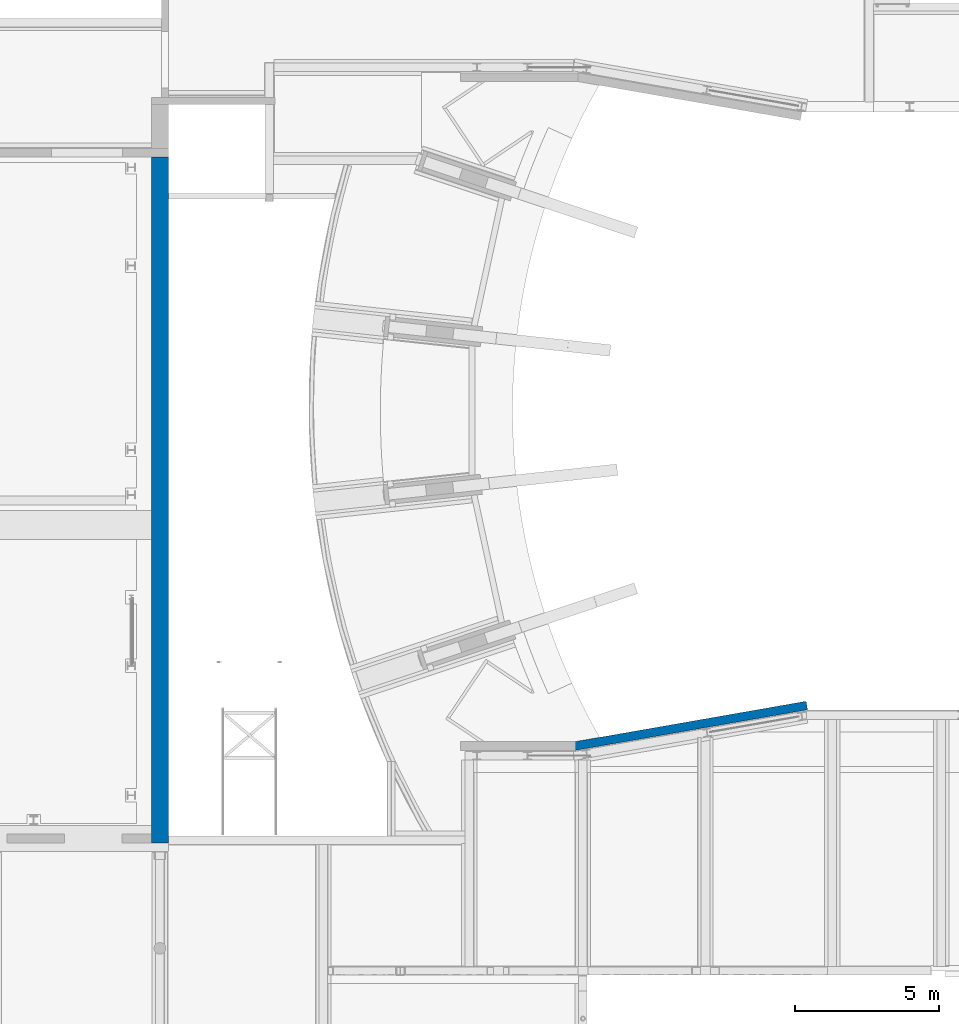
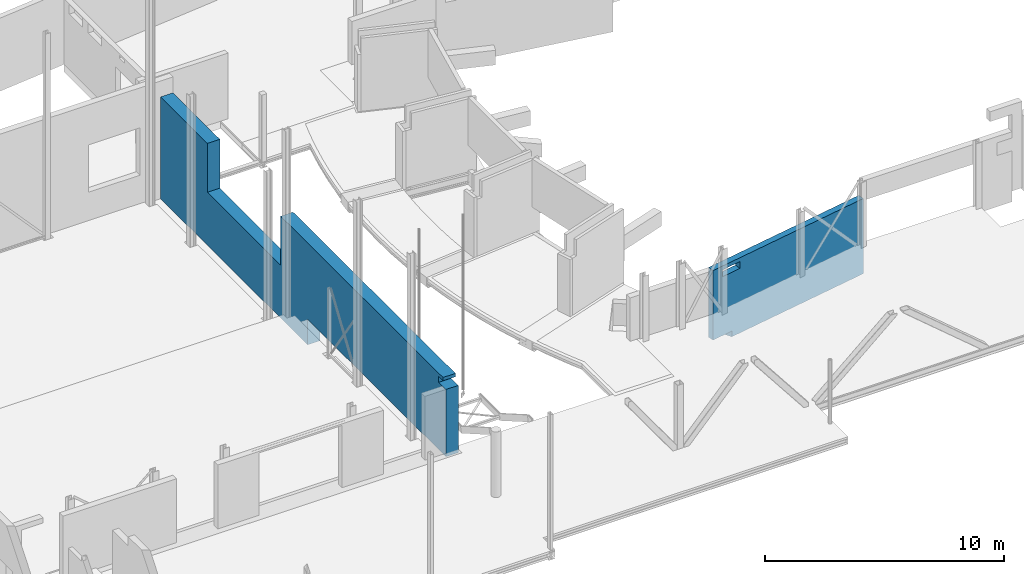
# One storey, part 36 of 37: 2 walls.
"""IFC2X3 building model written with IfcOpenShell, lengths in millimetres."""

import ifcopenshell
import ifcopenshell.guid

model = None  # the IFC model being written
_history = None  # IfcOwnerHistory: only IFC2X3 demands one
_inside = {}  # id of a spatial element -> (the spatial element, [elements in it])
_under = {}  # id of a project, library or spatial element -> (it, [spatial elements below it])
_declared = {}  # id of a project -> (the project, [libraries it declares])
_typed = {}  # id of a type object -> (the type object, [elements of that type])
_made_of = {}  # id of a material, layer set ... -> (it, [elements and type objects made of it])


def new_model(schema):
    """Start an empty IFC model of exactly this schema.

    Asked for "IFC4X3", IfcOpenShell would pick the latest addendum, in which some entities
    have other attributes; the version numbers below select the first issue.
    IFC2X3 requires an IfcOwnerHistory on every rooted entity: one is made here for all.
    """
    global model, _history
    if schema == "IFC4X3":
        model = ifcopenshell.file(schema_version=(4, 3, 0, 0))
    else:
        model = ifcopenshell.file(schema=schema)
    _inside.clear()
    _under.clear()
    _declared.clear()
    _typed.clear()
    _made_of.clear()
    _history = None
    if model.schema == "IFC2X3":
        org = make("IfcOrganization", Name="unknown")
        user = make(
            "IfcPersonAndOrganization",
            ThePerson=make("IfcPerson", FamilyName="unknown"),
            TheOrganization=org,
        )
        app = make(
            "IfcApplication",
            ApplicationDeveloper=org,
            Version="unknown",
            ApplicationFullName="unknown",
            ApplicationIdentifier="unknown",
        )
        _history = make(
            "IfcOwnerHistory",
            OwningUser=user,
            OwningApplication=app,
            ChangeAction="ADDED",
            CreationDate=0,
        )
    return model


def make(cls, **values):
    """One entity of the class cls with the attributes given. An attribute that is None is left unset."""
    return model.create_entity(
        cls, **{name: value for name, value in values.items() if value is not None}
    )


def entity(cls, *values):
    """Any entity or typed value of the class cls, its attributes in the order of the schema. None: left unset."""
    e = model.create_entity(cls)
    for i, value in enumerate(values):
        if value is not None:
            e[i] = value
    return e


def rooted(cls, **values):
    """An entity with a GlobalId (a new one), such as an element, a storey or a relation."""
    return make(cls, GlobalId=ifcopenshell.guid.new(), OwnerHistory=_history, **values)


def si_unit(unit_type, name, prefix=None):
    """IfcSIUnit, for example si_unit("LENGTHUNIT", "METRE", prefix="MILLI")."""
    return make("IfcSIUnit", UnitType=unit_type, Prefix=prefix, Name=name)


def converted_unit(unit_type, name, factor, base, dimensions=None, offset=None):
    """IfcConversionBasedUnit, such as the inch: factor (a typed value) times the base unit."""
    return make(
        "IfcConversionBasedUnit"
        if offset is None
        else "IfcConversionBasedUnitWithOffset",
        ConversionOffset=offset,
        Dimensions=None
        if dimensions is None
        else entity("IfcDimensionalExponents", *dimensions),
        UnitType=unit_type,
        Name=name,
        ConversionFactor=make(
            "IfcMeasureWithUnit", ValueComponent=factor, UnitComponent=base
        ),
    )


def derived_unit(unit_type, elements):
    """IfcDerivedUnit: a product of units, each with its exponent."""
    return make(
        "IfcDerivedUnit",
        Elements=[
            make("IfcDerivedUnitElement", Unit=unit, Exponent=power)
            for unit, power in elements
        ],
        UnitType=unit_type,
    )


def assignment(units):
    """IfcUnitAssignment: the units of a project."""
    return None if units is None else make("IfcUnitAssignment", Units=units)


def point(xyz):
    """IfcCartesianPoint."""
    return None if xyz is None else make("IfcCartesianPoint", Coordinates=xyz)


def direction(xyz):
    """IfcDirection."""
    return None if xyz is None else make("IfcDirection", DirectionRatios=xyz)


def frame(location, z_axis=None, x_axis=None):
    """IfcAxis2Placement3D, a coordinate frame: its origin and axes. An axis left out is left unset."""
    return make(
        "IfcAxis2Placement3D",
        Location=point(location),
        Axis=direction(z_axis),
        RefDirection=direction(x_axis),
    )


def origin():
    """The frame at (0, 0, 0) with its axes left unset."""
    return frame((0.0, 0.0, 0.0))


def place(relative_to, where):
    """IfcLocalPlacement: puts the frame where relative to a parent placement (None: the world)."""
    return make(
        "IfcLocalPlacement", PlacementRelTo=relative_to, RelativePlacement=where
    )


def context(
    kind, dimensions, precision=None, world=None, true_north=None, identifier=None
):
    """IfcGeometricRepresentationContext, for example the 3D "Model" context."""
    return make(
        "IfcGeometricRepresentationContext",
        ContextIdentifier=identifier,
        ContextType=kind,
        CoordinateSpaceDimension=dimensions,
        Precision=precision,
        WorldCoordinateSystem=world,
        TrueNorth=true_north,
    )


def subcontext(parent, identifier, kind, view, scale=None):
    """IfcGeometricRepresentationSubContext, for example "Body" below "Model"."""
    return make(
        "IfcGeometricRepresentationSubContext",
        ContextIdentifier=identifier,
        ContextType=kind,
        ParentContext=parent,
        TargetScale=scale,
        TargetView=view,
    )


def project(units=None, contexts=None):
    """IfcProject with its units and contexts."""
    return rooted(
        "IfcProject",
        Name="project",
        RepresentationContexts=contexts,
        UnitsInContext=assignment(units),
    )


def spatial(cls, under=None, at=None, **own):
    """A site, building, storey or space (cls), placed at a placement, below another one or the project."""
    s = rooted(cls, ObjectPlacement=at, **own)
    if under is not None:
        _under.setdefault(under.id(), (under, []))[1].append(s)
    return s


def faces_of(points, faces, orient=None, outer=None):
    """IfcFace entities. A face is a list of loops; a loop is a list of indices into points, from 0.

    orient and outer hold one flag for each loop. By default every Orientation is true, the
    first loop of a face is its IfcFaceOuterBound and the others are IfcFaceBound.
    """
    made = []
    for i, loops in enumerate(faces):
        bounds = []
        for j, loop in enumerate(loops):
            is_outer = j == 0 if outer is None else outer[i][j]
            bounds.append(
                make(
                    "IfcFaceOuterBound" if is_outer else "IfcFaceBound",
                    Bound=make("IfcPolyLoop", Polygon=[points[k] for k in loop]),
                    Orientation=True if orient is None else orient[i][j],
                )
            )
        made.append(make("IfcFace", Bounds=bounds))
    return made


def faceted_brep(points, faces, orient=None, outer=None, voids=None):
    """IfcFacetedBrep: a solid bounded by flat faces; with voids (closed shells), ...WithVoids."""
    shared = [point(p) for p in points]
    hull = make("IfcClosedShell", CfsFaces=faces_of(shared, faces, orient, outer))
    if voids is None:
        return make("IfcFacetedBrep", Outer=hull)
    return make(
        "IfcFacetedBrepWithVoids",
        Outer=hull,
        Voids=[
            make(cls, CfsFaces=faces_of(shared, fs, o, b)) for cls, fs, o, b in voids
        ],
    )


def shape(context_of_items, identifier, shape_type, items):
    """IfcShapeRepresentation: the items that make up one representation, for example the "Body"."""
    return make(
        "IfcShapeRepresentation",
        ContextOfItems=context_of_items,
        RepresentationIdentifier=identifier,
        RepresentationType=shape_type,
        Items=items,
    )


def material(Name=None, Category=None):
    """IfcMaterial."""
    return make("IfcMaterial", Name=Name, Category=Category)


def layer(
    of_material, thickness, ventilated=None, Name=None, Category=None, Priority=None
):
    """IfcMaterialLayer: one layer of a wall or slab, of a material (None: an air gap)."""
    return make(
        "IfcMaterialLayer",
        Material=of_material,
        LayerThickness=thickness,
        IsVentilated=ventilated,
        Name=Name,
        Category=Category,
        Priority=Priority,
    )


def layer_set(layers, Name=None):
    """IfcMaterialLayerSet."""
    return make("IfcMaterialLayerSet", MaterialLayers=layers, LayerSetName=Name)


def made_of(thing, what):
    """Note that an element or type object is made of a material, layer set ...; save() writes the relation."""
    if what is not None:
        _made_of.setdefault(what.id(), (what, []))[1].append(thing)
    return thing


def type_object(cls, material=None, **own):
    """A type object (cls), such as IfcWallType, which elements share."""
    return made_of(rooted(cls, **own), material)


def element(
    cls,
    number,
    at=None,
    inside=None,
    cuts=None,
    type_object=None,
    material=None,
    context=None,
    identifier="Body",
    shape_type=None,
    held_by="IfcProductDefinitionShape",
    body=None,
    shapes=None,
    **own,
):
    """One element of the class cls, such as IfcWall. Its Tag is "e" and its number.

    at: its placement. inside: the storey or other place that contains it. cuts: it is an
    opening in that element (IfcRelVoidsElement). A single representation is given by context,
    identifier, shape_type and body (its items); several are given by shapes. held_by: the class
    of the entity that holds the representations. save() writes the other relations.
    """
    e = rooted(cls, Tag="e%d" % number, ObjectPlacement=at, **own)
    if body is not None:
        shapes = [shape(context, identifier, shape_type, body)]
    if shapes is not None:
        e.Representation = make(held_by, Representations=shapes)
    if inside is not None:
        _inside.setdefault(inside.id(), (inside, []))[1].append(e)
    if cuts is not None:
        rooted(
            "IfcRelVoidsElement", RelatingBuildingElement=cuts, RelatedOpeningElement=e
        )
    if type_object is not None:
        _typed.setdefault(type_object.id(), (type_object, []))[1].append(e)
    return made_of(e, material)


def aggregate(whole, parts):
    """IfcRelAggregates: a whole, such as a stair, and the parts it consists of."""
    return rooted("IfcRelAggregates", RelatingObject=whole, RelatedObjects=parts)


def save(model, path):
    """Write the relations noted so far, then the file.

    IfcRelAggregates (storeys below a building ...), IfcRelContainedInSpatialStructure (elements
    in a storey), IfcRelDefinesByType, IfcRelAssociatesMaterial and IfcRelDeclares: one each for
    every whole, place, type object, material and project.
    """
    for whole, parts in _under.values():
        aggregate(whole, parts)
    for where, things in _inside.values():
        rooted(
            "IfcRelContainedInSpatialStructure",
            RelatedElements=things,
            RelatingStructure=where,
        )
    for kind, things in _typed.values():
        rooted("IfcRelDefinesByType", RelatedObjects=things, RelatingType=kind)
    for what, things in _made_of.values():
        rooted("IfcRelAssociatesMaterial", RelatedObjects=things, RelatingMaterial=what)
    for by, libraries in _declared.values():
        rooted("IfcRelDeclares", RelatingContext=by, RelatedDefinitions=libraries)
    model.write(path)


model = new_model("IFC2X3")

# Units and contexts
model_context = context("Model", 3, precision=0.01, world=origin(), true_north=direction((6.12303176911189e-17, 1.0)))
body_context = subcontext(model_context, "Body", "Model", "MODEL_VIEW")
ifc_project = project(units=[si_unit("LENGTHUNIT", "METRE", prefix="MILLI"), si_unit("AREAUNIT", "SQUARE_METRE", prefix="MILLI"), si_unit("VOLUMEUNIT", "CUBIC_METRE"), converted_unit("PLANEANGLEUNIT", "DEGREE", entity("IfcRatioMeasure", 0.0174532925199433), si_unit("PLANEANGLEUNIT", "RADIAN"), dimensions=[0, 0, 0, 0, 0, 0, 0]), si_unit("MASSUNIT", "GRAM", prefix="KILO"), derived_unit("MASSDENSITYUNIT", [(si_unit("MASSUNIT", "GRAM", prefix="KILO"), 1), (si_unit("LENGTHUNIT", "METRE"), -3)]), derived_unit("MOMENTOFINERTIAUNIT", [(si_unit("LENGTHUNIT", "METRE"), 4)]), si_unit("TIMEUNIT", "SECOND"), si_unit("FREQUENCYUNIT", "HERTZ"), si_unit("THERMODYNAMICTEMPERATUREUNIT", "DEGREE_CELSIUS"), derived_unit("THERMALTRANSMITTANCEUNIT", [(si_unit("MASSUNIT", "GRAM", prefix="KILO"), 1), (si_unit("THERMODYNAMICTEMPERATUREUNIT", "KELVIN"), -1), (si_unit("TIMEUNIT", "SECOND"), -3)]), derived_unit("VOLUMETRICFLOWRATEUNIT", [(si_unit("LENGTHUNIT", "METRE"), 3), (si_unit("TIMEUNIT", "SECOND"), -1)]), si_unit("ELECTRICCURRENTUNIT", "AMPERE"), si_unit("ELECTRICVOLTAGEUNIT", "VOLT"), si_unit("POWERUNIT", "WATT"), si_unit("FORCEUNIT", "NEWTON", prefix="KILO"), si_unit("ILLUMINANCEUNIT", "LUX"), si_unit("LUMINOUSFLUXUNIT", "LUMEN"), si_unit("LUMINOUSINTENSITYUNIT", "CANDELA"), derived_unit("USERDEFINED", [(si_unit("MASSUNIT", "GRAM", prefix="KILO"), -1), (si_unit("LENGTHUNIT", "METRE"), -2), (si_unit("TIMEUNIT", "SECOND"), 3), (si_unit("LUMINOUSFLUXUNIT", "LUMEN"), 1)]), derived_unit("LINEARVELOCITYUNIT", [(si_unit("LENGTHUNIT", "METRE"), 1), (si_unit("TIMEUNIT", "SECOND"), -1)]), si_unit("PRESSUREUNIT", "PASCAL"), derived_unit("USERDEFINED", [(si_unit("LENGTHUNIT", "METRE"), -2), (si_unit("MASSUNIT", "GRAM", prefix="KILO"), 1), (si_unit("TIMEUNIT", "SECOND"), -2)]), derived_unit("LINEARFORCEUNIT", [(si_unit("MASSUNIT", "GRAM", prefix="KILO"), 1), (si_unit("LENGTHUNIT", "METRE"), 1), (si_unit("TIMEUNIT", "SECOND"), -2), (si_unit("LENGTHUNIT", "METRE"), -1)]), derived_unit("PLANARFORCEUNIT", [(si_unit("MASSUNIT", "GRAM", prefix="KILO"), 1), (si_unit("LENGTHUNIT", "METRE"), 1), (si_unit("TIMEUNIT", "SECOND"), -2), (si_unit("LENGTHUNIT", "METRE"), -2)])], contexts=[model_context])

# Site, building, storey
site_placement = place(None, origin())
site = spatial("IfcSite", under=ifc_project, at=site_placement, Name="Theater aan de Parade", CompositionType="ELEMENT")
building_placement = place(site_placement, origin())
building = spatial("IfcBuilding", under=site, at=building_placement, Name="Theater aan de Parade", CompositionType="ELEMENT")
storey_placement = place(building_placement, frame((0.0, 0.0, 5020.0)))
storey = spatial("IfcBuildingStorey", under=building, at=storey_placement, Name="01 eerste verdieping", CompositionType="ELEMENT", Elevation=5020.0)

# Walls
ifc_material_1 = material(Name="00_PBT_MAT_beton t.p.g.")
ifc_layer_1 = layer(ifc_material_1, 300.0)
ifc_layer_set_1 = layer_set([ifc_layer_1], Name="Basic Wall:28_PBT_WA_beton t.p.g._d=300_bestaand")
wall_type_1 = type_object("IfcWallType", Name="Basic Wall:28_PBT_WA_beton t.p.g._d=300_bestaand", PredefinedType="STANDARD", material=ifc_layer_set_1)
wall_1_placement = place(storey_placement, frame((51584.4807077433, 20777.7545700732, -1710.0), z_axis=(0.0, 0.0, 1.0), x_axis=(0.985030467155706, 0.172380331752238, 0.0)))
element("IfcWall", 1, at=wall_1_placement, inside=storey, type_object=wall_type_1, Name="Basic Wall:28_PBT_WA_beton t.p.g._d=300_bestaand", ObjectType="Basic Wall:28_PBT_WA_beton t.p.g._d=300_bestaand", context=body_context, shape_type="Brep", body=[
    faceted_brep([(1478.13202737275, -150.0, 3295.0), (523.656382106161, -150.0, 3295.0), (1027.05150493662, -150.0, 290.0), (8205.6395035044, -150.0, 0.0), (8179.58746028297, -150.0, 3840.0), (1740.33775750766, -150.0, 3840.0), (1478.13202737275, -150.0, 3645.0), (0.0, -150.0, 290.0), (0.0, -150.0, 3840.0), (523.656382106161, -150.0, 3645.0), (1284.44363552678, -150.0, 3840.0), (1288.60271558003, -150.0, 3840.0), (1510.13105294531, -150.0, 3840.0), (1027.0515049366, -150.0, 0.0), (8205.6395035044, -150.0, 3840.0), (8205.6395035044, 150.0, 0.0), (915.869115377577, 150.0, 290.0), (1478.13202737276, 150.0, 3295.0), (915.869115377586, 150.0, 0.0), (1875.82403067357, 150.0, 3840.0), (8205.6395035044, 150.0, 3840.0), (523.656382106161, 150.0, 3295.0), (0.0, 150.0, 290.0), (0.0, 150.0, 3840.0), (26.0520432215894, 150.0, 3840.0), (523.656382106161, 150.0, 3645.0), (1478.13202737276, 150.0, 3645.0), (970.933376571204, -0.190984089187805, 290.0), (970.934778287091, -0.194766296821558, 0.0)], [[[0, 1, 2]], [[0, 2, 3]], [[4, 0, 3]], [[0, 4, 5]], [[6, 0, 5]], [[7, 2, 1]], [[8, 7, 1]], [[9, 8, 1]], [[8, 9, 10]], [[10, 9, 6]], [[6, 11, 10]], [[6, 5, 12]], [[12, 11, 6]], [[2, 13, 3]], [[14, 4, 3]], [[15, 16, 17]], [[16, 15, 18]], [[15, 17, 19]], [[15, 19, 20]], [[17, 16, 21]], [[22, 21, 16]], [[21, 22, 23]], [[24, 21, 23]], [[21, 24, 25]], [[25, 24, 19]], [[19, 17, 26]], [[19, 26, 25]], [[16, 27, 2, 7, 22]], [[18, 27, 16]], [[27, 18, 28]], [[28, 13, 2]], [[28, 2, 27]], [[3, 13, 28, 18, 15]], [[14, 3, 15, 20]], [[4, 14, 20, 19, 24, 23, 8, 10, 11, 12, 5]], [[7, 8, 23, 22]], [[9, 1, 21, 25]], [[6, 9, 25, 26]], [[0, 6, 26, 17]], [[1, 0, 17, 21]]]),
])
ifc_material_2 = material(Name="00_PBT_MAT_beton t.p.g._C30/37")
ifc_layer_2 = layer(ifc_material_2, 600.0)
ifc_layer_set_2 = layer_set([ifc_layer_2], Name="Basic Wall:28_PBT_WA_beton t.p.g._d=600_C30/37")
wall_type_2 = type_object("IfcWallType", Name="Basic Wall:28_PBT_WA_beton t.p.g._d=600_C30/37", PredefinedType="STANDARD", material=ifc_layer_set_2)
wall_2_placement = place(storey_placement, frame((37153.8581300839, 41273.3083270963, -1550.0), z_axis=(0.0, 0.0, 1.0), x_axis=(0.0, -1.0, 0.0)))
element("IfcWall", 2, at=wall_2_placement, inside=storey, type_object=wall_type_2, Name="Basic Wall:28_PBT_WA_beton t.p.g._d=600_C30/37", ObjectType="Basic Wall:28_PBT_WA_beton t.p.g._d=600_C30/37", context=body_context, shape_type="Brep", body=[
    faceted_brep([(12299.9938272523, -300.0, 0.0), (12299.9938272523, -300.0, 1300.0), (23261.9998802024, -300.0, 1300.0), (23861.9998802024, -300.0, 1300.0), (23861.9998802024, -300.0, 1470.0), (23861.9998802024, -300.0, 4730.0), (23561.9998802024, -300.0, 4730.0), (23261.9998726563, -300.0, 4730.0), (23261.9998726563, -300.0, 5030.0), (23623.0639515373, -300.0, 5030.0), (23623.0639515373, -300.0, 5200.0), (10046.9938292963, -300.0, 5200.0), (10046.9938292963, -300.0, 2700.0), (3912.99382929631, -300.0, 2700.0), (3912.99382929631, -300.0, 5200.0), (0.0, -300.0, 5200.0), (0.0, -300.0, 0.0), (12299.9938272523, 300.0, 1300.0), (12299.9938272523, 300.0, 800.0), (12299.9938272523, 300.0, 0.0), (0.0, 300.0, 0.0), (0.0, 300.0, 5200.0), (3912.99382929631, 300.0, 5200.0), (3912.99382929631, 300.0, 2700.0), (10046.9938292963, 300.0, 2700.0), (10046.9938292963, 300.0, 5200.0), (23623.0639515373, 300.0, 5200.0), (23623.0639515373, 300.0, 5140.0), (23623.0639515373, 300.0, 5030.0), (23261.9998726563, 300.0, 5030.0), (23261.9998726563, 300.0, 4730.0), (23861.9998802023, 300.0, 4730.0), (23861.9998802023, 300.0, 1470.0), (23861.9998802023, 300.0, 1300.0), (23261.9998802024, 300.0, 1300.0), (12299.9938272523, 300.000044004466, 0.0)], [[[0, 1, 2, 3, 4, 5, 6, 7, 8, 9, 10, 11, 12, 13, 14, 15, 16]], [[17, 18, 19, 20, 21, 22, 23, 24, 25, 26, 27, 28, 29, 30, 31, 32, 33, 34]], [[24, 12, 11, 25]], [[12, 24, 23, 13]], [[13, 23, 22, 14]], [[31, 5, 4, 3, 33, 32]], [[30, 7, 6, 5, 31]], [[8, 29, 28, 9]], [[7, 30, 29, 8]], [[10, 9, 28, 27, 26]], [[1, 0, 19, 18, 17]], [[3, 2, 1, 17, 34, 33]], [[0, 16, 20, 35]], [[16, 15, 21, 20]], [[15, 14, 22, 21]], [[25, 11, 10, 26]]]),
])

save(model, "model.ifc")
